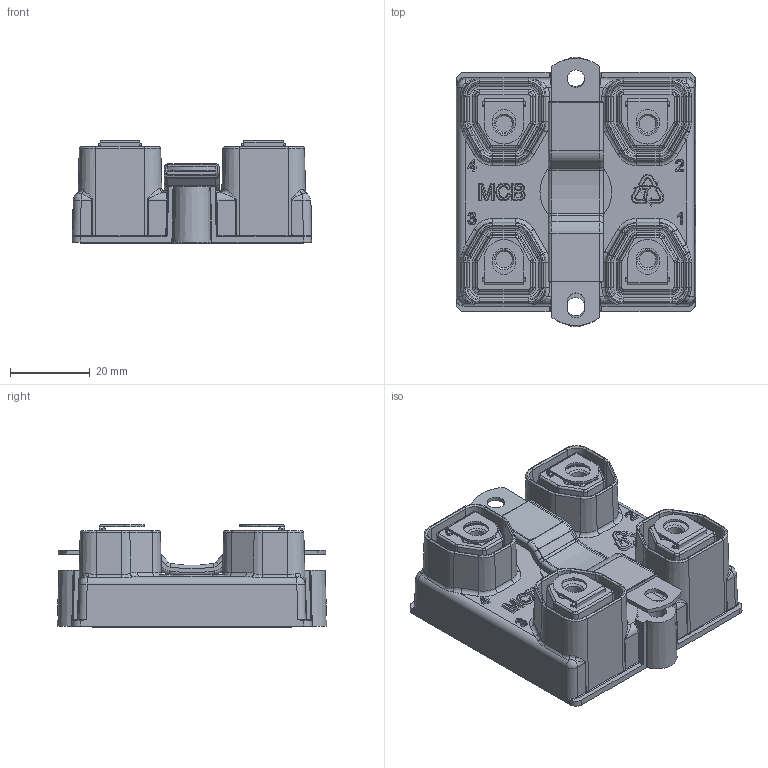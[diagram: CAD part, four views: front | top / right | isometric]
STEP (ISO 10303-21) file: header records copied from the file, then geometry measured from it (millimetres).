
FILE_DESCRIPTION(/* description */ ('Unknown'),/* implementation_level */ '2;1');
FILE_NAME(/* name */ '492-007',/* time_stamp */ '2020-10-15T11:06:07+02:00',/* author */ ('Unknown'),/* organization */ ('Unknown'),/* preprocessor_version */ 'ST-DEVELOPER v16.7',/* originating_system */ 'DEX',/* authorisation */ $);
FILE_SCHEMA (('AUTOMOTIVE_DESIGN { 1 0 10303 214 3 1 1 }','AUTOMOTIVE_DESIGN {1 0 10303 214 3 1 1}'));
Length unit declared in the file: millimetre
Products named in the file (15): 492-007; 277276 - repos; 211604_Bride position repos; 277059 - repos_737986_gaine bride repos; 277059 - repos_737987_gaine bride repos; Ecrou Haut HHM5; 492-007_marquage; 360050; 211038_cosse M5 T2-T3; 211037_cosse M5 T1-T4; 530-186_oa_0; 205014; 284031_boitier banalisé; 436-007
Assembly tree (19 placements, depth 3):
  492-007
    277276 - repos
      211604_Bride position repos
      277059 - repos_737986_gaine bride repos
      277059 - repos_737987_gaine bride repos
    Ecrou Haut HHM5  x4
    492-007_marquage
      360050
      492-007_marquage
    211038_cosse M5 T2-T3  x2
    211037_cosse M5 T1-T4  x2
    530-186_oa_0
      205014
    284031_boitier banalisé
    436-007
Bounding box: 60.08 x 67.46 x 25.77 mm (x, y, z)
Volume: 59767.4 mm3; surface area: 36432.6 mm2
Topology: 16 solids, 16 shells, 1187 faces, 2859 edges, 1727 vertices
Faces by surface type: plane 399, cylinder 343, torus 206, cone 142, bspline 85, sphere 12
Full cylindrical faces by diameter (mm): 4.134 x4, 4.4 x1, 6 x1, 18 x1
Entity records: 34453 total; most frequent: CARTESIAN_POINT 8732, DIRECTION 5525, ORIENTED_EDGE 5170, EDGE_CURVE 2585, AXIS2_PLACEMENT_3D 2141, VERTEX_POINT 1564, LINE 1243, VECTOR 1243
